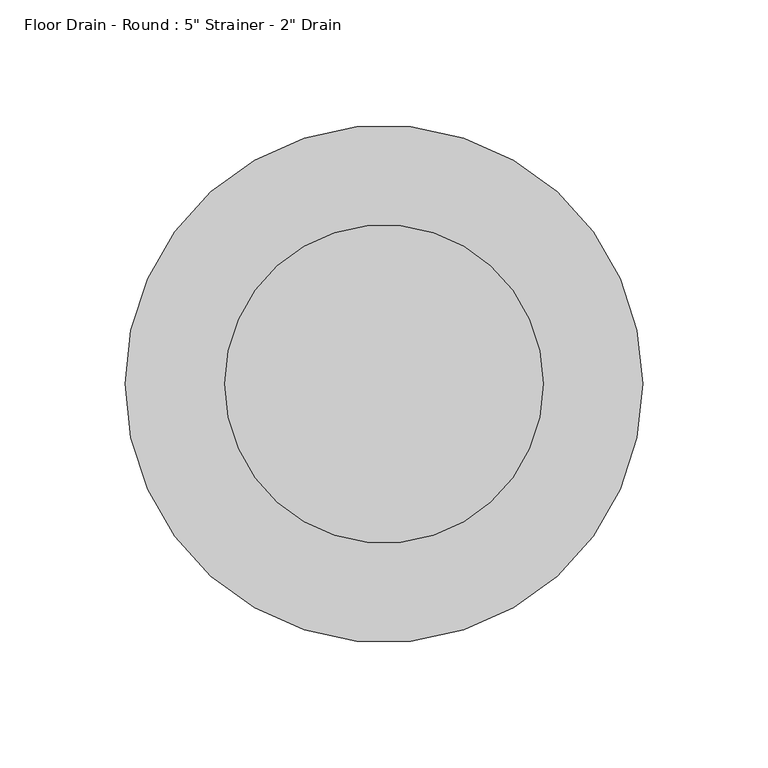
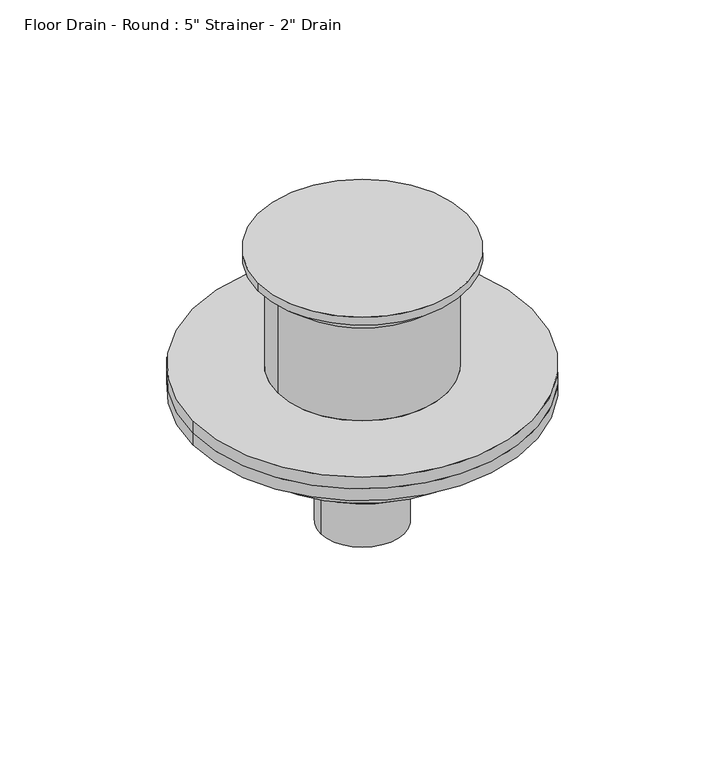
"""IFC4 building model written with IfcOpenShell, lengths in millimetres: flow terminal geometry."""

from ifc_helpers import new_model, si_unit, frame, origin, place, context, project, spatial, polyline, circle_curve, source, transform, mapped, element, save
from ifc_brep_helpers import plane_surface, cylinder_surface, revolved_surface, advanced_brep


def flow_terminal_accce45a(model_context):
    return source(origin(), model_context, "Body", "AdvancedBrep", [
        advanced_brep(
        [(103.1875, 0.0, -74.93), (-103.1875, 0.0, -74.93), (-51.59375, 0.0, -74.93), (51.59375, 0.0, -74.93), (103.1875, 0.0, -82.55), (-103.1875, 0.0, -82.55), (51.59375, 0.0, -15.24), (-51.59375, 0.0, -15.24), (-63.5, 0.0, -5.08), (63.5, 0.0, -5.08), (63.5, 0.0, 0.0), (-63.5, 0.0, 0.0)],
        [
            (0, 1, circle_curve(frame((0.0, 0.0, -74.93), z_axis=(0.0, 0.0, 1.0), x_axis=(-1.0, 0.0, 0.0)), 103.1875)),
            (1, 0, circle_curve(frame((0.0, 0.0, -74.93), z_axis=(0.0, 0.0, 1.0), x_axis=(-1.0, 0.0, 0.0)), 103.1875)),
            (2, 3, circle_curve(frame((0.0, 0.0, -74.93), z_axis=(0.0, 0.0, -1.0), x_axis=(-1.0, 0.0, 0.0)), 51.59375)),
            (3, 2, circle_curve(frame((0.0, 0.0, -74.93), z_axis=(0.0, 0.0, -1.0), x_axis=(-1.0, 0.0, 0.0)), 51.59375)),
            (4, 5, circle_curve(frame((0.0, 0.0, -82.55), z_axis=(0.0, 0.0, -1.0), x_axis=(-1.0, 0.0, 0.0)), 103.1875)),
            (5, 4, circle_curve(frame((0.0, 0.0, -82.55), z_axis=(0.0, 0.0, -1.0), x_axis=(-1.0, 0.0, 0.0)), 103.1875)),
            (0, 4),
            (5, 1),
            (6, 3),
            (2, 7),
            (7, 6, circle_curve(frame((0.0, 0.0, -15.24), z_axis=(0.0, 0.0, -1.0), x_axis=(-1.0, 0.0, 0.0)), 51.59375)),
            (6, 7, circle_curve(frame((0.0, 0.0, -15.24), z_axis=(0.0, 0.0, -1.0), x_axis=(-1.0, 0.0, 0.0)), 51.59375)),
            (7, 8),
            (8, 9, circle_curve(frame((0.0, 0.0, -5.08), z_axis=(0.0, 0.0, -1.0), x_axis=(-1.0, 0.0, 0.0)), 63.5)),
            (9, 6),
            (9, 8, circle_curve(frame((0.0, 0.0, -5.08), z_axis=(0.0, 0.0, -1.0), x_axis=(-1.0, 0.0, 0.0)), 63.5)),
            (10, 11, circle_curve(frame((0.0, 0.0, 0.0), z_axis=(0.0, 0.0, 1.0), x_axis=(-1.0, 0.0, 0.0)), 63.5)),
            (11, 10, circle_curve(frame((0.0, 0.0, 0.0), z_axis=(0.0, 0.0, 1.0), x_axis=(-1.0, 0.0, 0.0)), 63.5)),
            (10, 9),
            (8, 11),
        ],
        [
            plane_surface(frame((-103.1875, 0.0, -74.93), z_axis=(0.0, 0.0, 1.0), x_axis=(0.0, -1.0, 0.0))),
            plane_surface(frame((-103.1875, 0.0, -82.55), z_axis=(0.0, 0.0, -1.0), x_axis=(0.0, 1.0, 0.0))),
            cylinder_surface(frame((0.0, 0.0, -82.55), z_axis=(0.0, 0.0, 1.0), x_axis=(-1.0, 0.0, 0.0)), 103.1875),
            cylinder_surface(frame((0.0, 0.0, -74.93), z_axis=(0.0, 0.0, 1.0), x_axis=(-1.0, 0.0, 0.0)), 51.59375),
            revolved_surface(polyline([(-63.5, 0.0, -5.08), (-51.59375, 0.0, -15.24)]), (0.0, 0.0, 44.45), (0.0, 0.0, -1.0)),
            plane_surface(frame((-63.5, 0.0, 0.0), z_axis=(0.0, 0.0, 1.0), x_axis=(0.0, -1.0, 0.0))),
            cylinder_surface(frame((0.0, 0.0, -5.08), z_axis=(0.0, 0.0, 1.0), x_axis=(-1.0, 0.0, 0.0)), 63.5),
        ],
        [
            (0, [[1, 2], [3, 4]]),
            (1, [[5, 6]]),
            (2, [[-1, 7, -6, 8]]),
            (2, [[-2, -8, -5, -7]]),
            (3, [[9, -3, 10, 11]]),
            (3, [[-9, 12, -10, -4]]),
            (4, [[13, 14, 15, -11]]),
            (4, [[-13, -12, -15, 16]]),
            (5, [[17, 18]]),
            (6, [[-17, 19, -14, 20]]),
            (6, [[-18, -20, -16, -19]]),
        ],
    ),
        advanced_brep(
        [(25.4, 0.0, -174.625), (-25.4, 0.0, -174.625), (-25.4, 0.0, -128.5875), (25.4, 0.0, -128.5875), (51.3291667, 0.0, -128.5875), (-51.3291667, 0.0, -128.5875), (-51.3291667, 0.0, -110.1725), (51.3291667, 0.0, -110.1725), (77.2583333, 0.0, -110.1725), (-77.2583333, 0.0, -110.1725), (-77.2583333, 0.0, -90.17), (77.2583333, 0.0, -90.17), (103.1875, 0.0, -82.55), (-103.1875, 0.0, -82.55), (103.1875, 0.0, -90.17), (-103.1875, 0.0, -90.17)],
        [
            (0, 1, circle_curve(frame((0.0, 0.0, -174.625), z_axis=(0.0, 0.0, -1.0), x_axis=(-1.0, 0.0, 0.0)), 25.4)),
            (1, 0, circle_curve(frame((0.0, 0.0, -174.625), z_axis=(0.0, 0.0, -1.0), x_axis=(-1.0, 0.0, 0.0)), 25.4)),
            (1, 2),
            (2, 3, circle_curve(frame((0.0, 0.0, -128.5875), z_axis=(0.0, 0.0, -1.0), x_axis=(-1.0, 0.0, 0.0)), 25.4)),
            (3, 0),
            (3, 2, circle_curve(frame((0.0, 0.0, -128.5875), z_axis=(0.0, 0.0, -1.0), x_axis=(-1.0, 0.0, 0.0)), 25.4)),
            (4, 5, circle_curve(frame((0.0, 0.0, -128.5875), z_axis=(0.0, 0.0, -1.0), x_axis=(-1.0, 0.0, 0.0)), 51.3291667)),
            (5, 4, circle_curve(frame((0.0, 0.0, -128.5875), z_axis=(0.0, 0.0, -1.0), x_axis=(-1.0, 0.0, 0.0)), 51.3291667)),
            (5, 6),
            (6, 7, circle_curve(frame((0.0, 0.0, -110.1725), z_axis=(0.0, 0.0, -1.0), x_axis=(-1.0, 0.0, 0.0)), 51.3291667)),
            (7, 4),
            (7, 6, circle_curve(frame((0.0, 0.0, -110.1725), z_axis=(0.0, 0.0, -1.0), x_axis=(-1.0, 0.0, 0.0)), 51.3291667)),
            (8, 9, circle_curve(frame((0.0, 0.0, -110.1725), z_axis=(0.0, 0.0, -1.0), x_axis=(-1.0, 0.0, 0.0)), 77.2583333)),
            (9, 8, circle_curve(frame((0.0, 0.0, -110.1725), z_axis=(0.0, 0.0, -1.0), x_axis=(-1.0, 0.0, 0.0)), 77.2583333)),
            (9, 10),
            (10, 11, circle_curve(frame((0.0, 0.0, -90.17), z_axis=(0.0, 0.0, -1.0), x_axis=(-1.0, 0.0, 0.0)), 77.2583333)),
            (11, 8),
            (11, 10, circle_curve(frame((0.0, 0.0, -90.17), z_axis=(0.0, 0.0, -1.0), x_axis=(-1.0, 0.0, 0.0)), 77.2583333)),
            (12, 13, circle_curve(frame((0.0, 0.0, -82.55), z_axis=(0.0, 0.0, 1.0), x_axis=(-1.0, 0.0, 0.0)), 103.1875)),
            (13, 12, circle_curve(frame((0.0, 0.0, -82.55), z_axis=(0.0, 0.0, 1.0), x_axis=(-1.0, 0.0, 0.0)), 103.1875)),
            (14, 15, circle_curve(frame((0.0, 0.0, -90.17), z_axis=(0.0, 0.0, -1.0), x_axis=(-1.0, 0.0, 0.0)), 103.1875)),
            (15, 14, circle_curve(frame((0.0, 0.0, -90.17), z_axis=(0.0, 0.0, -1.0), x_axis=(-1.0, 0.0, 0.0)), 103.1875)),
            (12, 14),
            (15, 13),
        ],
        [
            plane_surface(frame((-25.4, 0.0, -174.625), z_axis=(0.0, 0.0, -1.0), x_axis=(0.0, 1.0, 0.0))),
            cylinder_surface(frame((0.0, 0.0, -174.625), z_axis=(0.0, 0.0, 1.0), x_axis=(-1.0, 0.0, 0.0)), 25.4),
            plane_surface(frame((-51.3291667, 0.0, -128.5875), z_axis=(0.0, 0.0, -1.0), x_axis=(0.0, 1.0, 0.0))),
            cylinder_surface(frame((0.0, 0.0, -128.5875), z_axis=(0.0, 0.0, 1.0), x_axis=(-1.0, 0.0, 0.0)), 51.3291667),
            plane_surface(frame((-77.2583333, 0.0, -110.1725), z_axis=(0.0, 0.0, -1.0), x_axis=(0.0, 1.0, 0.0))),
            cylinder_surface(frame((0.0, 0.0, -110.1725), z_axis=(0.0, 0.0, 1.0), x_axis=(-1.0, 0.0, 0.0)), 77.2583333),
            plane_surface(frame((-103.1875, 0.0, -82.55), z_axis=(0.0, 0.0, 1.0), x_axis=(0.0, -1.0, 0.0))),
            plane_surface(frame((-103.1875, 0.0, -90.17), z_axis=(0.0, 0.0, -1.0), x_axis=(0.0, 1.0, 0.0))),
            cylinder_surface(frame((0.0, 0.0, -90.17), z_axis=(0.0, 0.0, 1.0), x_axis=(-1.0, 0.0, 0.0)), 103.1875),
        ],
        [
            (0, [[1, 2]]),
            (1, [[-2, 3, 4, 5]]),
            (1, [[-1, -5, 6, -3]]),
            (2, [[7, 8], [-4, -6]]),
            (3, [[-8, 9, 10, 11]]),
            (3, [[-7, -11, 12, -9]]),
            (4, [[13, 14], [-10, -12]]),
            (5, [[-14, 15, 16, 17]]),
            (5, [[-13, -17, 18, -15]]),
            (6, [[19, 20]]),
            (7, [[21, 22], [-16, -18]]),
            (8, [[-19, 23, -22, 24]]),
            (8, [[-20, -24, -21, -23]]),
        ],
    ),
    ])


if __name__ == "__main__":
    model = new_model("IFC4")
    model_context = context("Model", 3, world=origin())
    ifc_project = project(units=[si_unit("LENGTHUNIT", "METRE", prefix="MILLI")], contexts=[model_context])
    site = spatial("IfcSite", under=ifc_project)
    building = spatial("IfcBuilding", under=site)
    placement = place(None, origin())
    flow_terminal_shape = flow_terminal_accce45a(model_context)
    element("IfcFlowTerminal", 1, ObjectType="Floor Drain - Round : 5\" Strainer - 2\" Drain", at=placement, inside=building, context=model_context, shape_type="MappedRepresentation", body=[
        mapped(flow_terminal_shape, transform((0.0, 0.0, 0.0), x_axis=(1.0, 0.0, 0.0), y_axis=(0.0, 1.0, 0.0), z_axis=(0.0, 0.0, 1.0))),
    ])
    save(model, "model.ifc")
